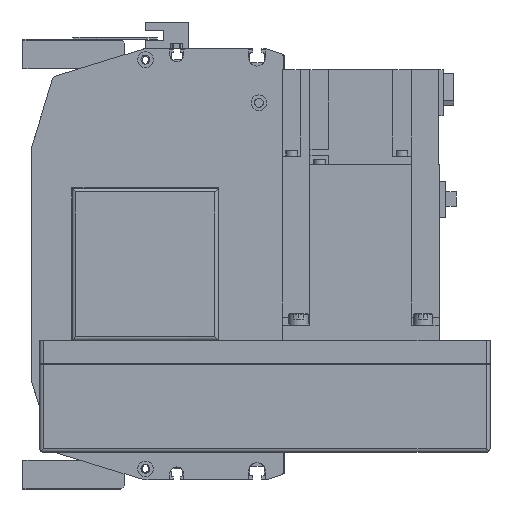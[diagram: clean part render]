
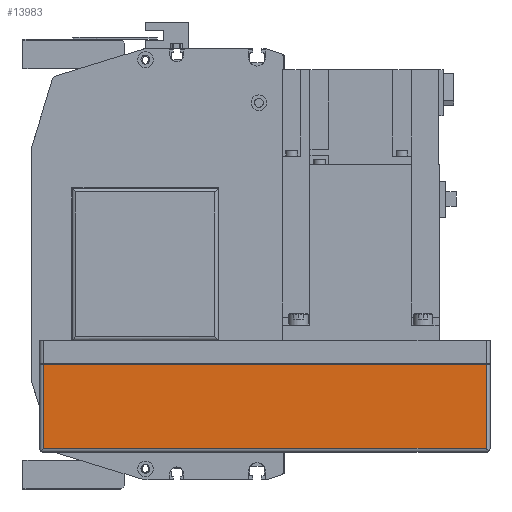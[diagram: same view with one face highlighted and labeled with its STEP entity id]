
A CAD part, left-side view. The second image highlights one B-rep face of the part: STEP entity #13983.
In plain terms, the highlighted planar face has unit normal (-1, 0, 0) as drawn and (0, 1, 0) by its records, which use the part's own axes.
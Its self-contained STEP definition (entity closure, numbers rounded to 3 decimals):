
#2388=ORIENTED_EDGE('',*,*,#5710,.F.);
#2389=ORIENTED_EDGE('',*,*,#5650,.T.);
#2390=ORIENTED_EDGE('',*,*,#5711,.F.);
#2391=ORIENTED_EDGE('',*,*,#5645,.F.);
#5645=EDGE_CURVE('',#7452,#7453,#8898,.T.);
#5650=EDGE_CURVE('',#7458,#7457,#8900,.T.);
#5710=EDGE_CURVE('',#7458,#7452,#8943,.T.);
#5711=EDGE_CURVE('',#7453,#7457,#8944,.T.);
#7452=VERTEX_POINT('',#21731);
#7453=VERTEX_POINT('',#21733);
#7457=VERTEX_POINT('',#21742);
#7458=VERTEX_POINT('',#21744);
#8898=LINE('',#21732,#10237);
#8900=LINE('',#21743,#10239);
#8943=LINE('',#21866,#10282);
#8944=LINE('',#21867,#10283);
#10237=VECTOR('',#17378,1000.);
#10239=VECTOR('',#17388,1000.);
#10282=VECTOR('',#17509,1000.);
#10283=VECTOR('',#17510,1000.);
#11430=EDGE_LOOP('',(#2388,#2389,#2390,#2391));
#12481=FACE_BOUND('',#11430,.T.);
#13370=PLANE('',#15011);
#13983=ADVANCED_FACE('',(#12481),#13370,.T.);
#15011=AXIS2_PLACEMENT_3D('',#21865,#17507,#17508);
#17378=DIRECTION('',(0.,0.,1.));
#17388=DIRECTION('',(0.,0.,1.));
#17507=DIRECTION('',(0.,1.,0.));
#17508=DIRECTION('',(0.,0.,1.));
#17509=DIRECTION('',(1.,0.,0.));
#17510=DIRECTION('',(-1.,0.,0.));
#21731=CARTESIAN_POINT('',(-2.,54.,-55.));
#21732=CARTESIAN_POINT('',(-2.,54.,-57.));
#21733=CARTESIAN_POINT('',(-2.,54.,-12.));
#21742=CARTESIAN_POINT('',(-228.,54.,-12.));
#21743=CARTESIAN_POINT('',(-228.,54.,-57.));
#21744=CARTESIAN_POINT('',(-228.,54.,-55.));
#21865=CARTESIAN_POINT('',(-2.,54.,-57.));
#21866=CARTESIAN_POINT('',(-230.,54.,-55.));
#21867=CARTESIAN_POINT('',(-2.,54.,-12.));
